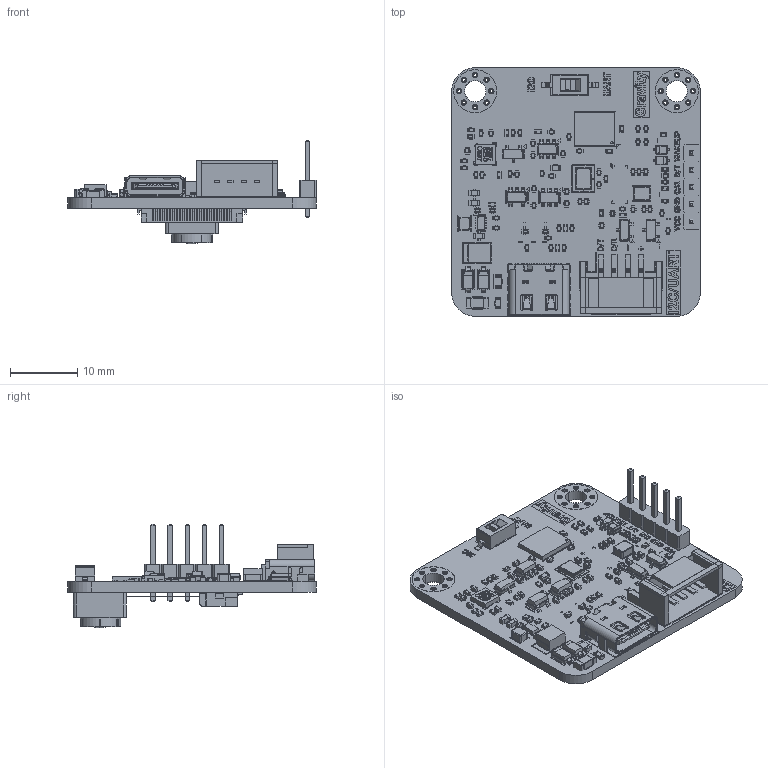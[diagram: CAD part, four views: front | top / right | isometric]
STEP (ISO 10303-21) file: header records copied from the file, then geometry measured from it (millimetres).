
FILE_DESCRIPTION(/* description */ (''),/* implementation_level */ '2;1');
FILE_NAME(/* name */ 'SEN0670',/* time_stamp */ '2026-06-05T08:35:41+08:00',/* author */ (''),/* organization */ (''),/* preprocessor_version */ 'ST-DEVELOPER v19.2',/* originating_system */ 'Rhino 8.0',/* authorisation */ '');
FILE_SCHEMA (('CONFIG_CONTROL_DESIGN'));
Products named in the file (6): Document; R_0402_1005Metric1; C_0402_1005Metric3; SOT-234; D_SOD-32311; L_2520122
Bounding box: 37 x 37 x 15.46 mm (x, y, z)
Volume: 3024.2 mm3; surface area: 7184.3 mm2
Topology: 463 solids, 747 shells, 7539 faces, 22299 edges, 16077 vertices
Faces by surface type: plane 5202, cylinder 2221, bspline 116
Entity records: 227173 total; most frequent: CARTESIAN_POINT 75848, ORIENTED_EDGE 36444, EDGE_CURVE 20146, B_SPLINE_CURVE_WITH_KNOTS 15477, DIRECTION 15312, VERTEX_POINT 14690, AXIS2_PLACEMENT_3D 10897, EDGE_LOOP 7196
